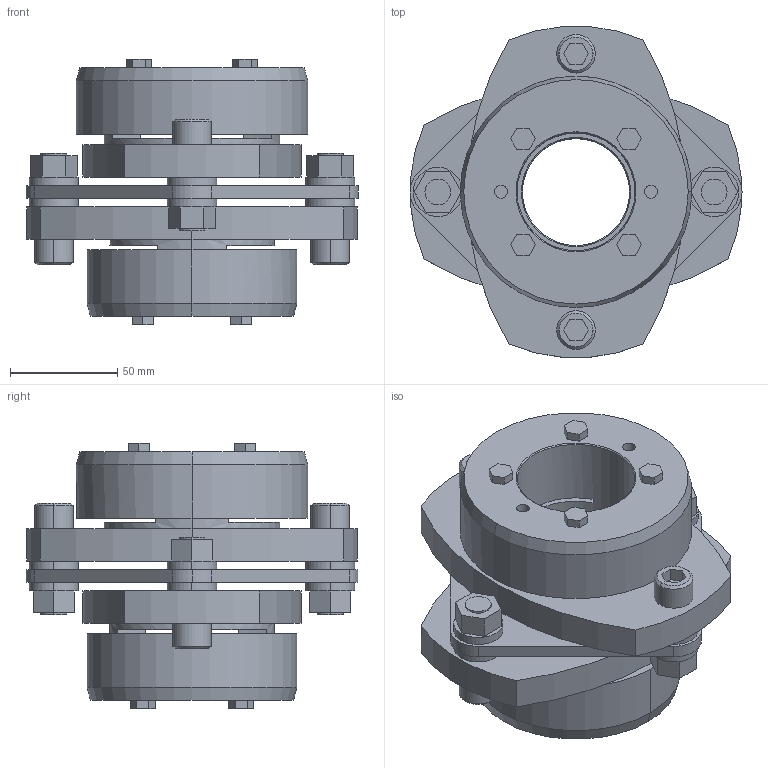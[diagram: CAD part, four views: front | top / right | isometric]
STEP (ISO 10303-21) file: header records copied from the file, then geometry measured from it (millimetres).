
FILE_DESCRIPTION((''),'2;1');
FILE_NAME('LCS-155T7-50×55.stp','2011-09-08T11:12:47',(''),(''),'AutoCAD STEP 2000i','AutoCAD 2000i',', , ');
FILE_SCHEMA(('CONFIG_CONTROL_DESIGN'));
Length unit declared in the file: millimetre
Products named in the file (8): LCS-155T7-50×55; 忣兜1; LC155T7-T055; LC155T7-T050-1; LC155T7-T050; LC155T7-T045-1; LC155T7-T045; LCS155-ITA
Assembly tree (7 placements, depth 2):
  LCS-155T7-50×55
    忣兜1
    LC155T7-T055
    LC155T7-T050-1
    LC155T7-T050
    LC155T7-T045-1
    LC155T7-T045
    LCS155-ITA
Bounding box: 155 x 154.9 x 124 mm (x, y, z)
Volume: 834112.2 mm3; surface area: 147663.4 mm2
Topology: 1 solids, 1 shells, 246 faces, 606 edges, 398 vertices
Faces by surface type: plane 146, cylinder 80, cone 20
Entity records: 7513 total; most frequent: DIRECTION 1312, CARTESIAN_POINT 1258, ORIENTED_EDGE 1212, EDGE_CURVE 606, AXIS2_PLACEMENT_3D 452, VECTOR 408, LINE 408, VERTEX_POINT 398
